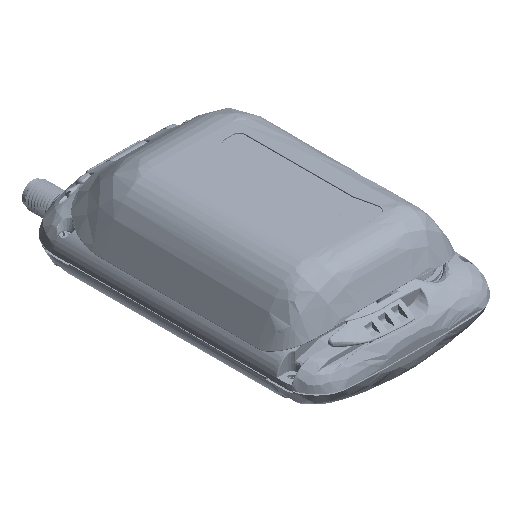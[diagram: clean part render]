
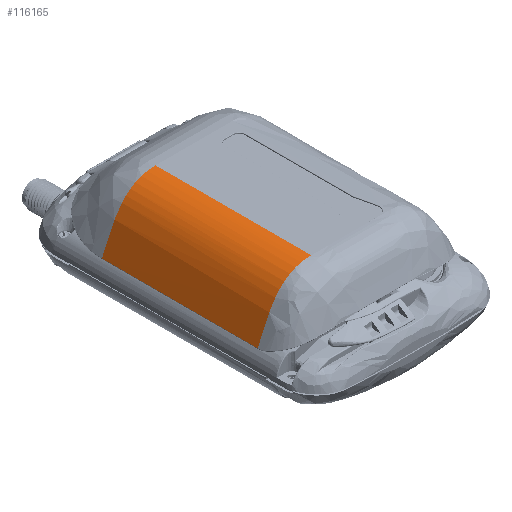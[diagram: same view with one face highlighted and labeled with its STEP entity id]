
A CAD part, isometric view. The second image highlights one B-rep face of the part: STEP entity #116165.
In plain terms, the highlighted free-form (B-spline) face has degree [3, 1] with [4, 2] control points.
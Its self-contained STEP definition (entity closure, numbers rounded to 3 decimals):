
#2967=B_SPLINE_SURFACE_WITH_KNOTS('',3,1,((#187550,#187551),(#187552,#187553),
(#187554,#187555),(#187556,#187557)),.UNSPECIFIED.,.F.,.F.,.F.,(4,4),(2,
2),(-1.924,-1.),(0.,5.771),.UNSPECIFIED.);
#7868=FACE_OUTER_BOUND('',#14426,.T.);
#14426=EDGE_LOOP('',(#75146,#75147,#75148,#75149,#75150,#75151,#75152));
#23727=B_SPLINE_CURVE_WITH_KNOTS('',3,(#179480,#179481,#179482,#179483,
#179484,#179485,#179486,#179487,#179488,#179489),.UNSPECIFIED.,.F.,.F.,
(4,2,2,2,4),(0.,1.175,1.722,2.031,2.376),
 .UNSPECIFIED.);
#23891=B_SPLINE_CURVE_WITH_KNOTS('',3,(#187241,#187242,#187243,#187244),
 .UNSPECIFIED.,.F.,.F.,(4,4),(1.898,1.924),
 .UNSPECIFIED.);
#23892=B_SPLINE_CURVE_WITH_KNOTS('',3,(#187246,#187247,#187248,#187249),
 .UNSPECIFIED.,.F.,.F.,(4,4),(1.582,1.898),
 .UNSPECIFIED.);
#23893=B_SPLINE_CURVE_WITH_KNOTS('',3,(#187251,#187252,#187253,#187254),
 .UNSPECIFIED.,.F.,.F.,(4,4),(1.287,1.582),
 .UNSPECIFIED.);
#23894=B_SPLINE_CURVE_WITH_KNOTS('',3,(#187256,#187257,#187258,#187259),
 .UNSPECIFIED.,.F.,.F.,(4,4),(1.,1.287),.UNSPECIFIED.);
#29945=LINE('',#181348,#37416);
#30083=LINE('',#187558,#37554);
#37416=VECTOR('',#131221,10.);
#37554=VECTOR('',#132099,10.);
#45003=VERTEX_POINT('',#179471);
#45004=VERTEX_POINT('',#179479);
#45127=VERTEX_POINT('',#181347);
#45414=VERTEX_POINT('',#187240);
#45415=VERTEX_POINT('',#187245);
#45416=VERTEX_POINT('',#187250);
#45417=VERTEX_POINT('',#187255);
#55944=EDGE_CURVE('',#45003,#45004,#23727,.T.);
#56153=EDGE_CURVE('',#45127,#45004,#29945,.T.);
#56643=EDGE_CURVE('',#45414,#45127,#23891,.T.);
#56644=EDGE_CURVE('',#45415,#45414,#23892,.T.);
#56645=EDGE_CURVE('',#45416,#45415,#23893,.T.);
#56646=EDGE_CURVE('',#45417,#45416,#23894,.T.);
#56655=EDGE_CURVE('',#45417,#45003,#30083,.T.);
#75146=ORIENTED_EDGE('',*,*,#55944,.F.);
#75147=ORIENTED_EDGE('',*,*,#56655,.F.);
#75148=ORIENTED_EDGE('',*,*,#56646,.T.);
#75149=ORIENTED_EDGE('',*,*,#56645,.T.);
#75150=ORIENTED_EDGE('',*,*,#56644,.T.);
#75151=ORIENTED_EDGE('',*,*,#56643,.T.);
#75152=ORIENTED_EDGE('',*,*,#56153,.T.);
#116165=ADVANCED_FACE('',(#7868),#2967,.F.);
#131221=DIRECTION('',(0.,1.,0.));
#132099=DIRECTION('',(0.,1.,0.));
#179471=CARTESIAN_POINT('',(-22.818,14.666,3.955));
#179479=CARTESIAN_POINT('',(-9.579,14.665,17.249));
#179480=CARTESIAN_POINT('Ctrl Pts',(-22.818,14.666,
3.955));
#179481=CARTESIAN_POINT('Ctrl Pts',(-21.336,14.666,
7.58));
#179482=CARTESIAN_POINT('Ctrl Pts',(-19.909,14.665,
10.906));
#179483=CARTESIAN_POINT('Ctrl Pts',(-16.98,14.665,
14.449));
#179484=CARTESIAN_POINT('Ctrl Pts',(-15.906,14.665,
15.402));
#179485=CARTESIAN_POINT('Ctrl Pts',(-13.884,14.665,
16.473));
#179486=CARTESIAN_POINT('Ctrl Pts',(-13.117,14.665,
16.757));
#179487=CARTESIAN_POINT('Ctrl Pts',(-11.416,14.665,
17.159));
#179488=CARTESIAN_POINT('Ctrl Pts',(-10.499,14.665,
17.249));
#179489=CARTESIAN_POINT('Ctrl Pts',(-9.579,14.665,
17.249));
#181347=CARTESIAN_POINT('',(-9.579,-23.811,17.249));
#181348=CARTESIAN_POINT('',(-9.579,-23.811,17.249));
#187240=CARTESIAN_POINT('',(-10.192,-23.811,17.235));
#187241=CARTESIAN_POINT('Ctrl Pts',(-10.192,-23.811,
17.235));
#187242=CARTESIAN_POINT('Ctrl Pts',(-9.991,-23.811,
17.244));
#187243=CARTESIAN_POINT('Ctrl Pts',(-9.787,-23.811,
17.249));
#187244=CARTESIAN_POINT('Ctrl Pts',(-9.579,-23.811,
17.249));
#187245=CARTESIAN_POINT('',(-16.234,-23.811,15.007));
#187246=CARTESIAN_POINT('Ctrl Pts',(-16.234,-23.811,
15.007));
#187247=CARTESIAN_POINT('Ctrl Pts',(-14.632,-23.811,
16.315));
#187248=CARTESIAN_POINT('Ctrl Pts',(-12.686,-23.811,
17.122));
#187249=CARTESIAN_POINT('Ctrl Pts',(-10.192,-23.811,
17.235));
#187250=CARTESIAN_POINT('',(-19.967,-23.811,10.222));
#187251=CARTESIAN_POINT('Ctrl Pts',(-19.967,-23.811,
10.222));
#187252=CARTESIAN_POINT('Ctrl Pts',(-18.912,-23.811,
12.145));
#187253=CARTESIAN_POINT('Ctrl Pts',(-17.722,-23.811,
13.792));
#187254=CARTESIAN_POINT('Ctrl Pts',(-16.234,-23.811,
15.007));
#187255=CARTESIAN_POINT('',(-22.818,-23.811,3.954));
#187256=CARTESIAN_POINT('Ctrl Pts',(-22.818,-23.811,
3.954));
#187257=CARTESIAN_POINT('Ctrl Pts',(-21.896,-23.811,
6.21));
#187258=CARTESIAN_POINT('Ctrl Pts',(-20.996,-23.811,
8.347));
#187259=CARTESIAN_POINT('Ctrl Pts',(-19.967,-23.811,
10.222));
#187550=CARTESIAN_POINT('Ctrl Pts',(-9.579,-23.811,
17.249));
#187551=CARTESIAN_POINT('Ctrl Pts',(-9.579,33.904,
17.249));
#187552=CARTESIAN_POINT('Ctrl Pts',(-17.109,-23.811,
17.249));
#187553=CARTESIAN_POINT('Ctrl Pts',(-17.109,33.904,
17.249));
#187554=CARTESIAN_POINT('Ctrl Pts',(-19.85,-23.811,
11.215));
#187555=CARTESIAN_POINT('Ctrl Pts',(-19.85,33.904,
11.215));
#187556=CARTESIAN_POINT('Ctrl Pts',(-22.818,-23.811,
3.954));
#187557=CARTESIAN_POINT('Ctrl Pts',(-22.818,33.904,
3.955));
#187558=CARTESIAN_POINT('',(-22.818,-23.811,3.954));
